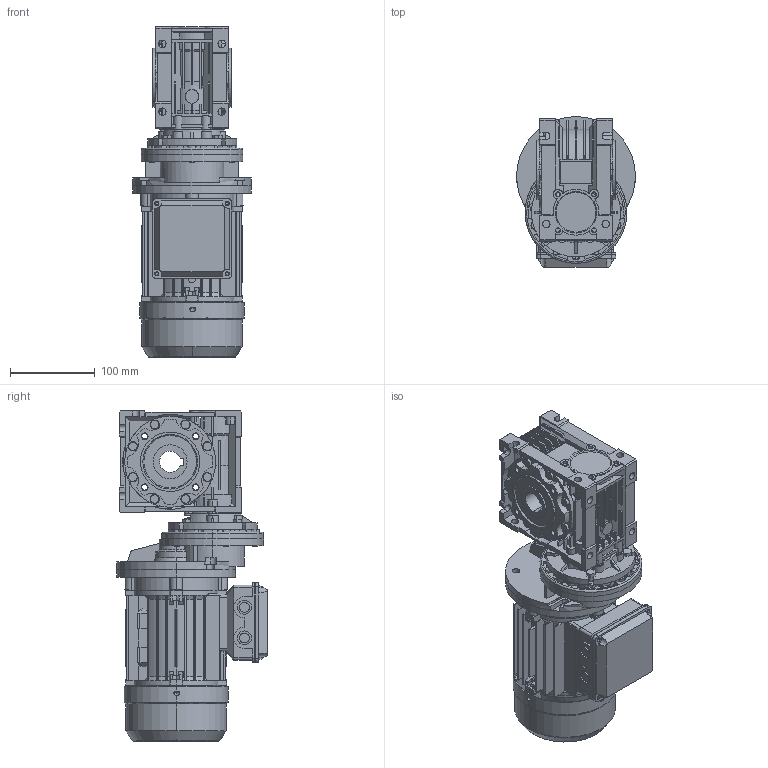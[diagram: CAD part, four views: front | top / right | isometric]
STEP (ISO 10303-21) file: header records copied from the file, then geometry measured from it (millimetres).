
FILE_DESCRIPTION (( 'STEP AP214' ), '1' );
FILE_NAME ('CMRV050_PC063_MX63.STEP', '2018-07-04T11:02:16', ( '' ), ( '' ), 'SwSTEP 2.0', 'SolidWorks 2012', '' );
FILE_SCHEMA (( 'AUTOMOTIVE_DESIGN' ));
Length unit declared in the file: millimetre
Products named in the file (20): CMRV050_B07; MX63_B5; L黤terfl黦el_MS63; Klemmenkastendeckel_MS63; Klemmnkastenunterteil_MS63; Lüfterhaube_MS63; B-Lagerschild_MS63; B5-Flansch_MS63; Gehäuse_MS63; PC063-A06_Ø14.LK85; ã¢+³A5í-5í-25; GBú»T70ú«1-2000-+-¨¢ÃÈ¦Í¨-À-¦ÂñM6í-14; +_ÀÔ©Ã15í-5; -½¦¢¦Ã+_Ë-ÀÔ19í-42í-6_B1; -½¦¢¦Ã+_Ë-ÀÔ17í-30í-7_B1; PC63-ﾟ; PC63戌俓; 0617P06302 (PC63ﾂ-ｩﾃ); 0617P06301 (PC63火耳); CMRV050_PC063_MX63
Assembly tree (23 placements, depth 3):
  CMRV050_PC063_MX63
    PC063-A06_Ø14.LK85
      0617P06301 (PC63火耳)
      0617P06302 (PC63ﾂ-ｩﾃ)
      PC63戌俓
      PC63-ﾟ
      -½¦¢¦Ã+_Ë-ÀÔ17í-30í-7_B1
      -½¦¢¦Ã+_Ë-ÀÔ19í-42í-6_B1
      +_ÀÔ©Ã15í-5
      GBú»T70ú«1-2000-+-¨¢ÃÈ¦Í¨-À-¦ÂñM6í-14  x5
      ã¢+³A5í-5í-25
    MX63_B5
      Gehäuse_MS63
      B5-Flansch_MS63
      B-Lagerschild_MS63
      Lüfterhaube_MS63
      Klemmnkastenunterteil_MS63
      Klemmenkastendeckel_MS63
      L黤terfl黦el_MS63
    CMRV050_B07
Bounding box: 140 x 177.5 x 389.17 mm (x, y, z)
Volume: 928389.6 mm3; surface area: 704433 mm2
Topology: 20 solids, 26 shells, 3143 faces, 8459 edges, 5453 vertices
Faces by surface type: plane 1505, cylinder 1050, cone 463, bspline 125
Entity records: 106330 total; most frequent: CARTESIAN_POINT 22315, ORIENTED_EDGE 15450, DIRECTION 15410, EDGE_CURVE 7889, AXIS2_PLACEMENT_3D 5458, VERTEX_POINT 5141, LINE 4494, VECTOR 4494
